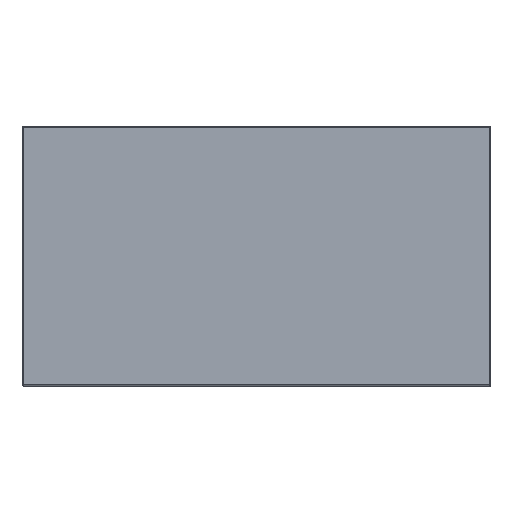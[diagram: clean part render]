
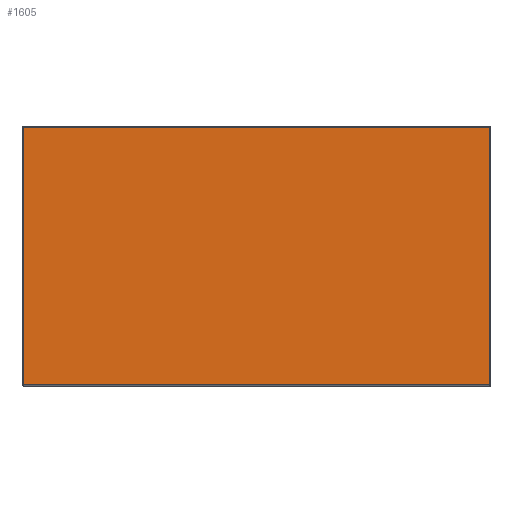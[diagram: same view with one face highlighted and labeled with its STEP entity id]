
A CAD part, left-side view. The second image highlights one B-rep face of the part: STEP entity #1605.
In plain terms, the highlighted planar face has unit normal (-1, 0, 0).
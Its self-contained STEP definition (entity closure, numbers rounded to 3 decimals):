
#52 = DIRECTION ( 'NONE',  ( 0., 1., 0. ) ) ;
#63 = LINE ( 'NONE', #1812, #1136 ) ;
#93 = AXIS2_PLACEMENT_3D ( 'NONE', #1294, #1804, #960 ) ;
#177 = VERTEX_POINT ( 'NONE', #1233 ) ;
#182 = FACE_OUTER_BOUND ( 'NONE', #1141, .T. ) ;
#341 = ORIENTED_EDGE ( 'NONE', *, *, #1448, .T. ) ;
#348 = LINE ( 'NONE', #977, #1195 ) ;
#401 = DIRECTION ( 'NONE',  ( 0., 0., -1. ) ) ;
#406 = VECTOR ( 'NONE', #52, 1000. ) ;
#559 = CARTESIAN_POINT ( 'NONE',  ( -900., 200., 248. ) ) ;
#577 = LINE ( 'NONE', #911, #1601 ) ;
#635 = PLANE ( 'NONE',  #93 ) ;
#709 = VERTEX_POINT ( 'NONE', #2094 ) ;
#791 = DIRECTION ( 'NONE',  ( 0., 0., 1. ) ) ;
#840 = VERTEX_POINT ( 'NONE', #1507 ) ;
#911 = CARTESIAN_POINT ( 'NONE',  ( -900., 198., -248. ) ) ;
#960 = DIRECTION ( 'NONE',  ( 0., 0., 1. ) ) ;
#977 = CARTESIAN_POINT ( 'NONE',  ( -900., 0., -248. ) ) ;
#997 = LINE ( 'NONE', #559, #406 ) ;
#1050 = ORIENTED_EDGE ( 'NONE', *, *, #1606, .T. ) ;
#1066 = VERTEX_POINT ( 'NONE', #1149 ) ;
#1070 = ORIENTED_EDGE ( 'NONE', *, *, #1282, .T. ) ;
#1136 = VECTOR ( 'NONE', #791, 1000. ) ;
#1141 = EDGE_LOOP ( 'NONE', ( #1070, #341, #1576, #1050 ) ) ;
#1149 = CARTESIAN_POINT ( 'NONE',  ( -900., -700., 248. ) ) ;
#1195 = VECTOR ( 'NONE', #2146, 1000. ) ;
#1233 = CARTESIAN_POINT ( 'NONE',  ( -900., 198., 248. ) ) ;
#1282 = EDGE_CURVE ( 'NONE', #1066, #177, #997, .T. ) ;
#1294 = CARTESIAN_POINT ( 'NONE',  ( -900., -1868.154, -250. ) ) ;
#1448 = EDGE_CURVE ( 'NONE', #177, #709, #577, .T. ) ;
#1507 = CARTESIAN_POINT ( 'NONE',  ( -900., -700., -248. ) ) ;
#1576 = ORIENTED_EDGE ( 'NONE', *, *, #1973, .T. ) ;
#1601 = VECTOR ( 'NONE', #401, 1000. ) ;
#1605 = ADVANCED_FACE ( 'NONE', ( #182 ), #635, .T. ) ;
#1606 = EDGE_CURVE ( 'NONE', #840, #1066, #63, .T. ) ;
#1804 = DIRECTION ( 'NONE',  ( -1., 0., 0. ) ) ;
#1812 = CARTESIAN_POINT ( 'NONE',  ( -900., -700., 248. ) ) ;
#1973 = EDGE_CURVE ( 'NONE', #709, #840, #348, .T. ) ;
#2094 = CARTESIAN_POINT ( 'NONE',  ( -900., 198., -248. ) ) ;
#2146 = DIRECTION ( 'NONE',  ( 0., -1., 0. ) ) ;
